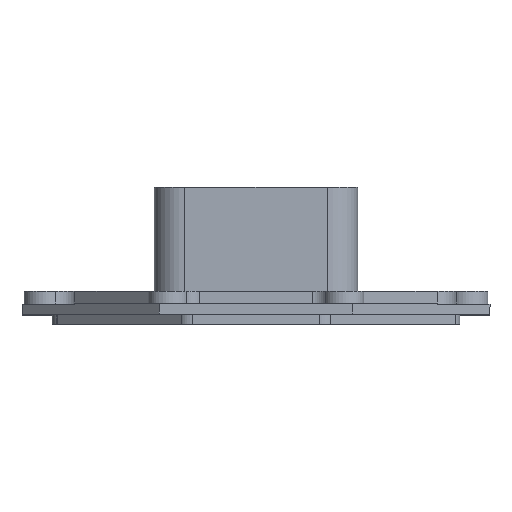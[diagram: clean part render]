
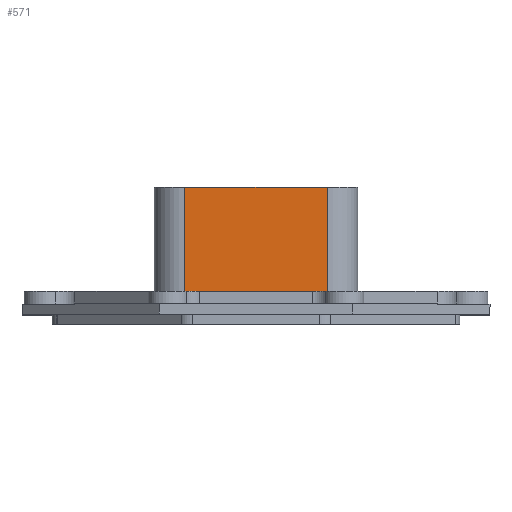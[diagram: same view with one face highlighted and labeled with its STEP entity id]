
A CAD part, top view. The second image highlights one B-rep face of the part: STEP entity #571.
In plain terms, the highlighted planar face has unit normal (0, 0, 1).
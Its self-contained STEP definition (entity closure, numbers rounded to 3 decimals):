
#571=ADVANCED_FACE('',(#954),#3858,.T.);
#954=FACE_OUTER_BOUND('',#1431,.F.);
#1431=EDGE_LOOP('',(#2121,#2122,#2123,#2124));
#2121=ORIENTED_EDGE('',*,*,#6631,.F.);
#2122=ORIENTED_EDGE('',*,*,#6643,.F.);
#2123=ORIENTED_EDGE('',*,*,#6513,.F.);
#2124=ORIENTED_EDGE('',*,*,#6637,.T.);
#3858=PLANE('',#9523);
#6513=EDGE_CURVE('',#8828,#8823,#7390,.T.);
#6631=EDGE_CURVE('',#8834,#8839,#7472,.T.);
#6637=EDGE_CURVE('',#8828,#8839,#7476,.T.);
#6643=EDGE_CURVE('',#8823,#8834,#7482,.T.);
#7390=LINE('',#12859,#8017);
#7472=LINE('',#12977,#8099);
#7476=LINE('',#12983,#8103);
#7482=LINE('',#12989,#8109);
#8017=VECTOR('',#10311,28.);
#8099=VECTOR('',#10465,28.);
#8103=VECTOR('',#10473,20.5);
#8109=VECTOR('',#10479,20.5);
#8823=VERTEX_POINT('',#12392);
#8828=VERTEX_POINT('',#12397);
#8834=VERTEX_POINT('',#12403);
#8839=VERTEX_POINT('',#12408);
#9523=AXIS2_PLACEMENT_3D('',#13457,#11112,#11113);
#10311=DIRECTION('',(1.,0.,0.));
#10465=DIRECTION('',(-1.,0.,0.));
#10473=DIRECTION('',(0.,1.,0.));
#10479=DIRECTION('',(0.,1.,0.));
#11112=DIRECTION('',(0.,0.,1.));
#11113=DIRECTION('',(-1.,0.,0.));
#12392=CARTESIAN_POINT('',(-36.,41.05,95.5));
#12397=CARTESIAN_POINT('',(-64.,41.05,95.5));
#12403=CARTESIAN_POINT('',(-36.,61.55,95.5));
#12408=CARTESIAN_POINT('',(-64.,61.55,95.5));
#12859=CARTESIAN_POINT('',(-64.,41.05,95.5));
#12977=CARTESIAN_POINT('',(-36.,61.55,95.5));
#12983=CARTESIAN_POINT('',(-64.,41.05,95.5));
#12989=CARTESIAN_POINT('',(-36.,41.05,95.5));
#13457=CARTESIAN_POINT('',(-29.6,61.95,95.5));
